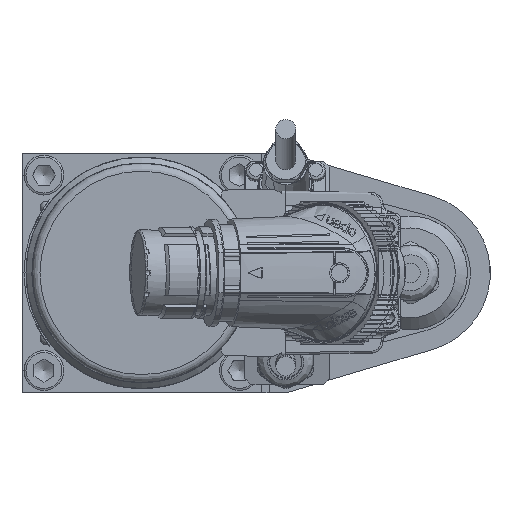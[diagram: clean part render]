
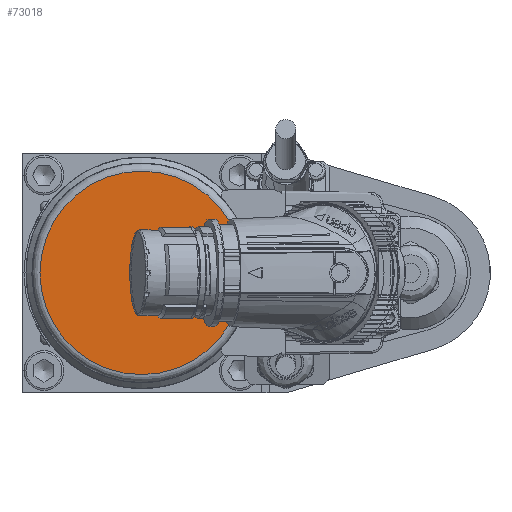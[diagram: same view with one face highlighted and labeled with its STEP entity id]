
A CAD part, left-side view. The second image highlights one B-rep face of the part: STEP entity #73018.
In plain terms, the highlighted planar face has unit normal (-1, 0, 0).
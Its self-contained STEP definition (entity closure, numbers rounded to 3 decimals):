
#8617 = DIRECTION ( 'NONE',  ( -1., 0., 0. ) ) ;
#16422 = AXIS2_PLACEMENT_3D ( 'NONE', #46180, #108461, #55148 ) ;
#17074 = CARTESIAN_POINT ( 'NONE',  ( -348.4, 0., 0. ) ) ;
#28958 = CIRCLE ( 'NONE', #16422, 25.5 ) ;
#46180 = CARTESIAN_POINT ( 'NONE',  ( -348.4, 0., 0. ) ) ;
#55148 = DIRECTION ( 'NONE',  ( 0., 0., 1. ) ) ;
#55830 = EDGE_LOOP ( 'NONE', ( #67837 ) ) ;
#65380 = CARTESIAN_POINT ( 'NONE',  ( -348.4, 0., 25.5 ) ) ;
#67837 = ORIENTED_EDGE ( 'NONE', *, *, #98478, .T. ) ;
#70623 = DIRECTION ( 'NONE',  ( 0., 0., 1. ) ) ;
#73018 = ADVANCED_FACE ( 'NONE', ( #113112 ), #114836, .T. ) ;
#85373 = AXIS2_PLACEMENT_3D ( 'NONE', #17074, #8617, #70623 ) ;
#98478 = EDGE_CURVE ( 'NONE', #101204, #101204, #28958, .T. ) ;
#101204 = VERTEX_POINT ( 'NONE', #65380 ) ;
#108461 = DIRECTION ( 'NONE',  ( -1., 0., 0. ) ) ;
#113112 = FACE_OUTER_BOUND ( 'NONE', #55830, .T. ) ;
#114836 = PLANE ( 'NONE',  #85373 ) ;
